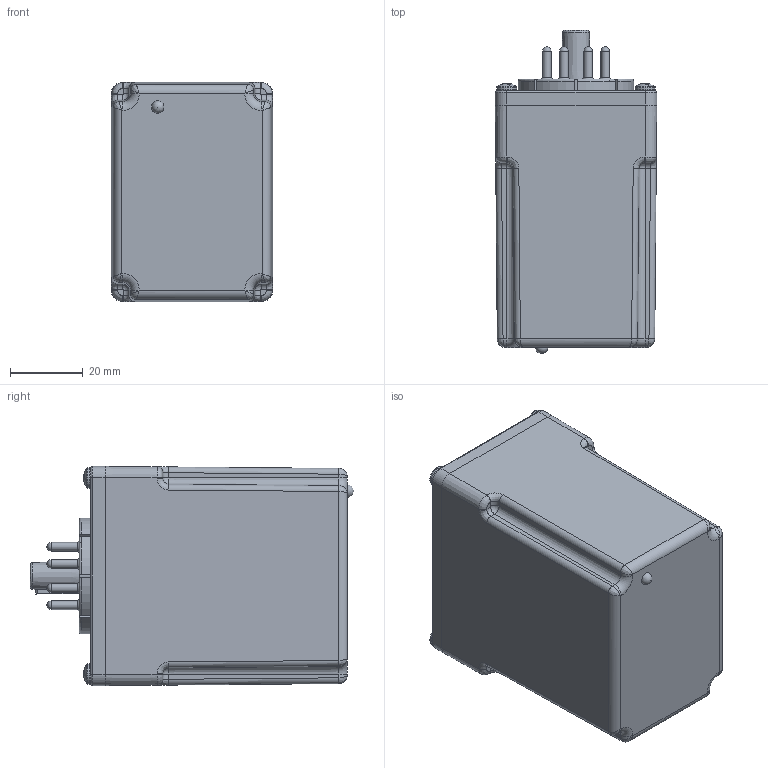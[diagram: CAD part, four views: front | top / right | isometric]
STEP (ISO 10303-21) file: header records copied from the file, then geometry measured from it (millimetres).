
FILE_DESCRIPTION(('FreeCAD Model'),'2;1');
FILE_NAME('Open CASCADE Shape Model','2023-06-06T12:59:07',(''),(''), 'Open CASCADE STEP processor 7.6','FreeCAD','Unknown');
FILE_SCHEMA(('AUTOMOTIVE_DESIGN { 1 0 10303 214 1 1 1 1 }'));
Products named in the file (1): Compound
Bounding box: 44.45 x 88.95 x 60.33 mm (x, y, z)
Surface area: 43507.1 mm2 (no closed solid volume)
Topology: 0 solids, 19 shells, 1847 faces, 4732 edges, 2933 vertices
Faces by surface type: plane 690, cylinder 682, bspline 200, torus 121, sphere 57, cone 57, revolution 40
Full cylindrical faces by diameter (mm): 0.254 x16, 1.257 x8, 1.714 x8, 1.905 x16, 2.362 x16, 2.464 x8, 3.175 x4, 4.191 x8, 7.925 x1
Entity records: 174030 total; most frequent: CARTESIAN_POINT 85092, DIRECTION 15196, ORIENTED_EDGE 9318, PCURVE 9318, DEFINITIONAL_REPRESENTATION 9318, LINE 9047, VECTOR 9047, EDGE_CURVE 4667
